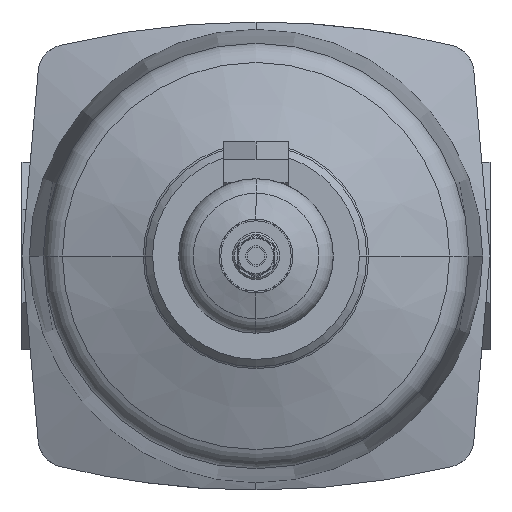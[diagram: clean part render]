
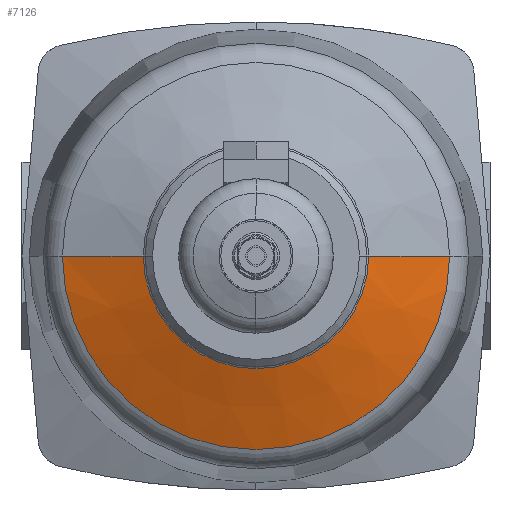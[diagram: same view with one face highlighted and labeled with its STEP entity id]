
A CAD part, front view. The second image highlights one B-rep face of the part: STEP entity #7126.
In plain terms, the highlighted conical face has half-angle 70 degrees and reference radius 66.173 mm.
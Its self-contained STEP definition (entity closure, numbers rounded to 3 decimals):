
#205 = VECTOR ( 'NONE', #7615, 1000. ) ;
#1039 = LINE ( 'NONE', #9438, #205 ) ;
#1214 = EDGE_CURVE ( 'NONE', #9176, #3313, #6806, .T. ) ;
#1587 = CARTESIAN_POINT ( 'NONE',  ( 38.508, -201.272, 0. ) ) ;
#2674 = ORIENTED_EDGE ( 'NONE', *, *, #12103, .T. ) ;
#3213 = CARTESIAN_POINT ( 'NONE',  ( 0., -201.272, 0. ) ) ;
#3313 = VERTEX_POINT ( 'NONE', #3662 ) ;
#3428 = DIRECTION ( 'NONE',  ( 0., 1., 0. ) ) ;
#3662 = CARTESIAN_POINT ( 'NONE',  ( 66.173, -191.203, 0. ) ) ;
#3846 = EDGE_CURVE ( 'NONE', #7738, #9176, #7402, .T. ) ;
#3983 = DIRECTION ( 'NONE',  ( 0.94, 0.342, 0. ) ) ;
#4459 = AXIS2_PLACEMENT_3D ( 'NONE', #3213, #6827, #10670 ) ;
#4517 = CIRCLE ( 'NONE', #6477, 66.173 ) ;
#4603 = EDGE_CURVE ( 'NONE', #8749, #3313, #4517, .T. ) ;
#5509 = VECTOR ( 'NONE', #3983, 1000. ) ;
#5763 = ORIENTED_EDGE ( 'NONE', *, *, #4603, .T. ) ;
#5787 = CARTESIAN_POINT ( 'NONE',  ( -38.508, -201.272, 0. ) ) ;
#6415 = FACE_OUTER_BOUND ( 'NONE', #10516, .T. ) ;
#6477 = AXIS2_PLACEMENT_3D ( 'NONE', #6816, #10601, #9507 ) ;
#6806 = LINE ( 'NONE', #7033, #5509 ) ;
#6816 = CARTESIAN_POINT ( 'NONE',  ( 0., -191.203, 0. ) ) ;
#6827 = DIRECTION ( 'NONE',  ( 0., -1., 0. ) ) ;
#7033 = CARTESIAN_POINT ( 'NONE',  ( 66.173, -191.203, 0. ) ) ;
#7126 = ADVANCED_FACE ( 'NONE', ( #6415 ), #11815, .T. ) ;
#7402 = CIRCLE ( 'NONE', #4459, 38.508 ) ;
#7615 = DIRECTION ( 'NONE',  ( -0.94, 0.342, 0. ) ) ;
#7738 = VERTEX_POINT ( 'NONE', #5787 ) ;
#8114 = AXIS2_PLACEMENT_3D ( 'NONE', #11799, #3428, #10990 ) ;
#8749 = VERTEX_POINT ( 'NONE', #11468 ) ;
#9176 = VERTEX_POINT ( 'NONE', #1587 ) ;
#9436 = ORIENTED_EDGE ( 'NONE', *, *, #3846, .F. ) ;
#9438 = CARTESIAN_POINT ( 'NONE',  ( -66.173, -191.203, 0. ) ) ;
#9507 = DIRECTION ( 'NONE',  ( 1., 0., 0. ) ) ;
#9796 = ORIENTED_EDGE ( 'NONE', *, *, #1214, .F. ) ;
#10516 = EDGE_LOOP ( 'NONE', ( #9796, #9436, #2674, #5763 ) ) ;
#10601 = DIRECTION ( 'NONE',  ( 0., -1., 0. ) ) ;
#10670 = DIRECTION ( 'NONE',  ( 1., 0., 0. ) ) ;
#10990 = DIRECTION ( 'NONE',  ( -1., 0., 0. ) ) ;
#11468 = CARTESIAN_POINT ( 'NONE',  ( -66.173, -191.203, 0. ) ) ;
#11799 = CARTESIAN_POINT ( 'NONE',  ( 0., -191.203, 0. ) ) ;
#11815 = CONICAL_SURFACE ( 'NONE', #8114, 66.173, 1.222 ) ;
#12103 = EDGE_CURVE ( 'NONE', #7738, #8749, #1039, .T. ) ;
